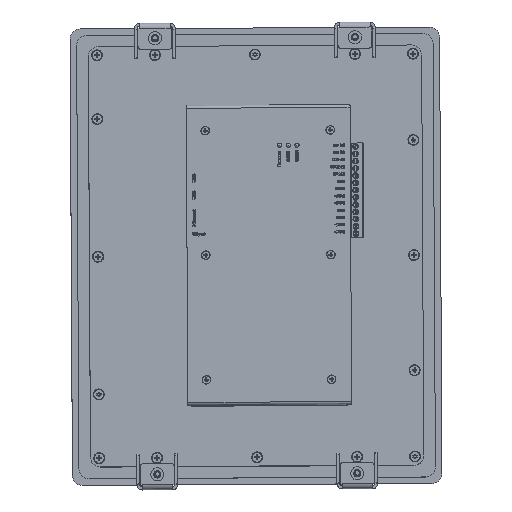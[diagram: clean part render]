
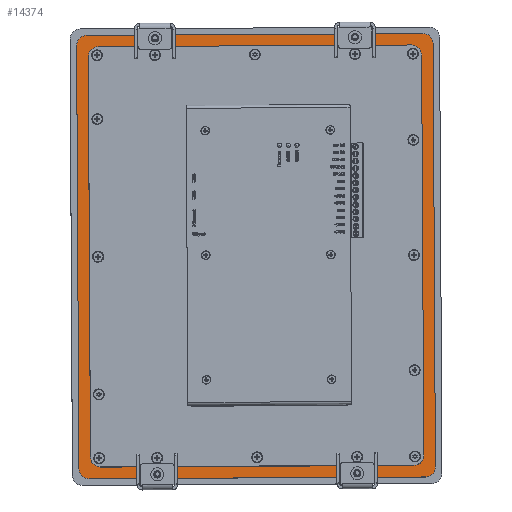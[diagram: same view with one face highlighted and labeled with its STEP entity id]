
A CAD part, top view. The second image highlights one B-rep face of the part: STEP entity #14374.
In plain terms, the highlighted planar face has unit normal (0.002, 0.014, 1) as drawn and (-0.088, -0.002, 0.996) by its records, which use the part's own axes.
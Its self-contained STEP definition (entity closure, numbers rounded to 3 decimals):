
#14374=ADVANCED_FACE('',(#55364,#55366),#55368,.F.);
#55364=FACE_BOUND('',#55365,.T.);
#55365=EDGE_LOOP('',(#88705,#88706,#88707,#88708,#88709,#88710,#88711,#88712));
#55366=FACE_BOUND('',#55367,.T.);
#55367=EDGE_LOOP('',(#88713,#88714,#88715,#88716,#88717,#88718,#88719,#88720));
#55368=PLANE('',#55369);
#55369=AXIS2_PLACEMENT_3D('',#55370,#55371,#55372);
#55370=CARTESIAN_POINT('',(-0.787,-46.345,26.943));
#55371=DIRECTION('',(0.088,0.002,-0.996));
#55372=DIRECTION('',(-0.045,0.999,-0.002));
#88705=ORIENTED_EDGE('',*,*,#115458,.F.);
#88706=ORIENTED_EDGE('',*,*,#115459,.F.);
#88707=ORIENTED_EDGE('',*,*,#115460,.F.);
#88708=ORIENTED_EDGE('',*,*,#115461,.F.);
#88709=ORIENTED_EDGE('',*,*,#115462,.F.);
#88710=ORIENTED_EDGE('',*,*,#115463,.F.);
#88711=ORIENTED_EDGE('',*,*,#115464,.F.);
#88712=ORIENTED_EDGE('',*,*,#115465,.F.);
#88713=ORIENTED_EDGE('',*,*,#114522,.T.);
#88714=ORIENTED_EDGE('',*,*,#114519,.T.);
#88715=ORIENTED_EDGE('',*,*,#114582,.T.);
#88716=ORIENTED_EDGE('',*,*,#114580,.T.);
#88717=ORIENTED_EDGE('',*,*,#114562,.T.);
#88718=ORIENTED_EDGE('',*,*,#114560,.T.);
#88719=ORIENTED_EDGE('',*,*,#114542,.T.);
#88720=ORIENTED_EDGE('',*,*,#114540,.T.);
#114519=EDGE_CURVE('',#130584,#130585,#130586,.F.);
#114522=EDGE_CURVE('',#130589,#130584,#130590,.F.);
#114540=EDGE_CURVE('',#130624,#130589,#130625,.F.);
#114542=EDGE_CURVE('',#130627,#130624,#130628,.F.);
#114560=EDGE_CURVE('',#130662,#130627,#130663,.F.);
#114562=EDGE_CURVE('',#130665,#130662,#130666,.F.);
#114580=EDGE_CURVE('',#130700,#130665,#130701,.F.);
#114582=EDGE_CURVE('',#130585,#130700,#130703,.F.);
#115458=EDGE_CURVE('',#132355,#132356,#132357,.T.);
#115459=EDGE_CURVE('',#132358,#132355,#132359,.T.);
#115460=EDGE_CURVE('',#132360,#132358,#132361,.T.);
#115461=EDGE_CURVE('',#132362,#132360,#132363,.T.);
#115462=EDGE_CURVE('',#132364,#132362,#132365,.T.);
#115463=EDGE_CURVE('',#132366,#132364,#132367,.T.);
#115464=EDGE_CURVE('',#132368,#132366,#132369,.T.);
#115465=EDGE_CURVE('',#132356,#132368,#132370,.T.);
#130584=VERTEX_POINT('',#161256);
#130585=VERTEX_POINT('',#161257);
#130586=CIRCLE('',#161258,7.);
#130589=VERTEX_POINT('',#161268);
#130590=LINE('',#161269,#161270);
#130624=VERTEX_POINT('',#161339);
#130625=CIRCLE('',#161340,7.);
#130627=VERTEX_POINT('',#161347);
#130628=LINE('',#161348,#161349);
#130662=VERTEX_POINT('',#161418);
#130663=CIRCLE('',#161419,7.);
#130665=VERTEX_POINT('',#161426);
#130666=LINE('',#161427,#161428);
#130700=VERTEX_POINT('',#161497);
#130701=CIRCLE('',#161498,7.);
#130703=LINE('',#161505,#161506);
#132355=VERTEX_POINT('',#166415);
#132356=VERTEX_POINT('',#166416);
#132357=LINE('',#166417,#166418);
#132358=VERTEX_POINT('',#166420);
#132359=CIRCLE('',#166421,7.);
#132360=VERTEX_POINT('',#166425);
#132361=LINE('',#166426,#166427);
#132362=VERTEX_POINT('',#166429);
#132363=CIRCLE('',#166430,7.);
#132364=VERTEX_POINT('',#166434);
#132365=LINE('',#166435,#166436);
#132366=VERTEX_POINT('',#166438);
#132367=CIRCLE('',#166439,7.);
#132368=VERTEX_POINT('',#166443);
#132369=LINE('',#166444,#166445);
#132370=CIRCLE('',#166447,7.);
#161256=CARTESIAN_POINT('',(-121.482,86.298,16.581));
#161257=CARTESIAN_POINT('',(-114.834,93.608,17.181));
#161258=AXIS2_PLACEMENT_3D('',#161259,#161260,#161261);
#161259=CARTESIAN_POINT('',(-114.517,86.615,17.195));
#161260=DIRECTION('',(-0.088,-0.002,0.996));
#161261=DIRECTION('',(-0.045,0.999,-0.002));
#161268=CARTESIAN_POINT('',(-108.968,-189.418,17.131));
#161269=CARTESIAN_POINT('',(-121.482,86.298,16.581));
#161270=VECTOR('',#161271,1.);
#161271=DIRECTION('',(0.045,-0.999,0.002));
#161339=CARTESIAN_POINT('',(-101.685,-196.093,17.759));
#161340=AXIS2_PLACEMENT_3D('',#161341,#161342,#161343);
#161341=CARTESIAN_POINT('',(-102.002,-189.1,17.745));
#161342=DIRECTION('',(-0.088,-0.002,0.996));
#161343=DIRECTION('',(-0.995,-0.045,-0.088));
#161347=CARTESIAN_POINT('',(113.26,-186.299,36.705));
#161348=CARTESIAN_POINT('',(-101.685,-196.093,17.759));
#161349=VECTOR('',#161350,1.);
#161350=DIRECTION('',(0.995,0.045,0.088));
#161418=CARTESIAN_POINT('',(119.908,-178.989,37.305));
#161419=AXIS2_PLACEMENT_3D('',#161420,#161421,#161422);
#161420=CARTESIAN_POINT('',(112.942,-179.306,36.691));
#161421=DIRECTION('',(-0.088,-0.002,0.996));
#161422=DIRECTION('',(0.045,-0.999,0.002));
#161426=CARTESIAN_POINT('',(107.394,96.727,36.755));
#161427=CARTESIAN_POINT('',(119.908,-178.989,37.305));
#161428=VECTOR('',#161429,1.);
#161429=DIRECTION('',(-0.045,0.999,-0.002));
#161497=CARTESIAN_POINT('',(100.11,103.402,36.127));
#161498=AXIS2_PLACEMENT_3D('',#161499,#161500,#161501);
#161499=CARTESIAN_POINT('',(100.428,96.409,36.141));
#161500=DIRECTION('',(-0.088,-0.002,0.996));
#161501=DIRECTION('',(0.995,0.045,0.088));
#161505=CARTESIAN_POINT('',(100.11,103.402,36.127));
#161506=VECTOR('',#161507,1.);
#161507=DIRECTION('',(-0.995,-0.045,-0.088));
#166415=CARTESIAN_POINT('',(114.992,105.081,37.441));
#166416=CARTESIAN_POINT('',(128.232,-186.618,38.023));
#166417=CARTESIAN_POINT('',(114.992,105.081,37.441));
#166418=VECTOR('',#166419,1.);
#166419=DIRECTION('',(0.045,-0.999,0.002));
#166420=CARTESIAN_POINT('',(107.709,111.757,36.813));
#166421=AXIS2_PLACEMENT_3D('',#166422,#166423,#166424);
#166422=CARTESIAN_POINT('',(108.026,104.764,36.827));
#166423=DIRECTION('',(0.088,0.002,-0.996));
#166424=DIRECTION('',(-0.045,0.999,-0.002));
#166425=CARTESIAN_POINT('',(-123.158,101.237,16.463));
#166426=CARTESIAN_POINT('',(-123.158,101.237,16.463));
#166427=VECTOR('',#166428,1.);
#166428=DIRECTION('',(0.995,0.045,0.088));
#166429=CARTESIAN_POINT('',(-129.806,93.927,15.863));
#166430=AXIS2_PLACEMENT_3D('',#166431,#166432,#166433);
#166431=CARTESIAN_POINT('',(-122.84,94.244,16.477));
#166432=DIRECTION('',(0.088,0.002,-0.996));
#166433=DIRECTION('',(-0.995,-0.045,-0.088));
#166434=CARTESIAN_POINT('',(-116.566,-197.772,16.445));
#166435=CARTESIAN_POINT('',(-116.566,-197.772,16.445));
#166436=VECTOR('',#166437,1.);
#166437=DIRECTION('',(-0.045,0.999,-0.002));
#166438=CARTESIAN_POINT('',(-109.283,-204.447,17.073));
#166439=AXIS2_PLACEMENT_3D('',#166440,#166441,#166442);
#166440=CARTESIAN_POINT('',(-109.6,-197.455,17.059));
#166441=DIRECTION('',(0.088,0.002,-0.996));
#166442=DIRECTION('',(0.045,-0.999,0.002));
#166443=CARTESIAN_POINT('',(121.583,-193.928,37.423));
#166444=CARTESIAN_POINT('',(121.583,-193.928,37.423));
#166445=VECTOR('',#166446,1.);
#166446=DIRECTION('',(-0.995,-0.045,-0.088));
#166447=AXIS2_PLACEMENT_3D('',#166448,#166449,#166450);
#166448=CARTESIAN_POINT('',(121.266,-186.935,37.409));
#166449=DIRECTION('',(0.088,0.002,-0.996));
#166450=DIRECTION('',(0.995,0.045,0.088));
